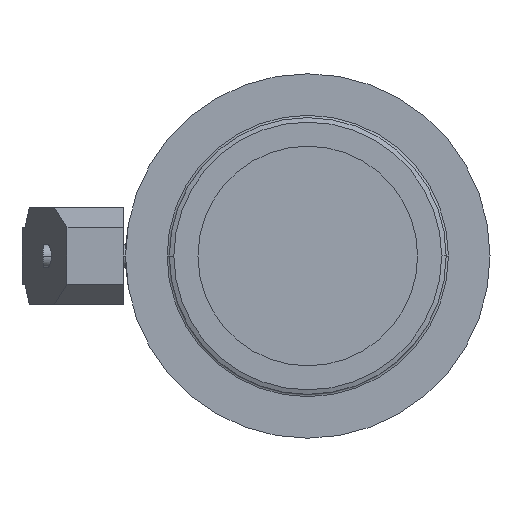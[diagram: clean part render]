
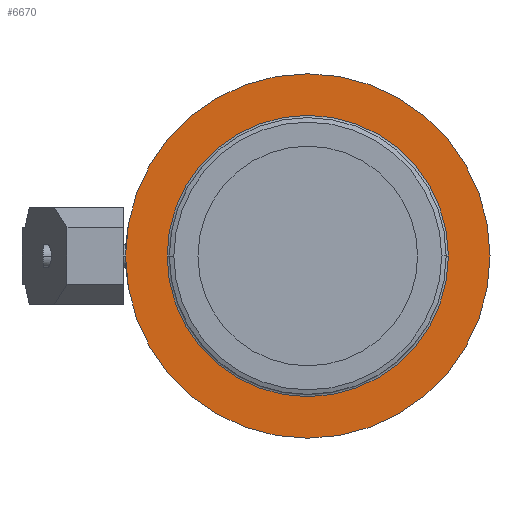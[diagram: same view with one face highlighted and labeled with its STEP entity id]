
A CAD part, left-side view. The second image highlights one B-rep face of the part: STEP entity #6670.
In plain terms, the highlighted planar face has unit normal (-1, 0, 0).
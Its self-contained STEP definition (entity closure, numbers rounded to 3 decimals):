
#4040=CARTESIAN_POINT('',(92.024,-120.808,
0.));
#4050=VERTEX_POINT('',#4040);
#6280=CARTESIAN_POINT('',(92.024,41.192,0.));
#6290=VERTEX_POINT('',#6280);
#6320=CARTESIAN_POINT('',(92.024,-39.808,0.));
#6330=DIRECTION('',(1.,0.,0.));
#6340=DIRECTION('',(0.,1.,0.));
#6350=AXIS2_PLACEMENT_3D('',#6320,#6330,#6340);
#6360=CIRCLE('',#6350,81.);
#6370=EDGE_CURVE('',#4050,#6290,#6360,.T.);
#6420=CARTESIAN_POINT('',(92.024,38.842,0.));
#6430=DIRECTION('',(1.,0.,0.));
#6440=DIRECTION('',(0.,1.,0.));
#6450=AXIS2_PLACEMENT_3D('',#6420,#6430,#6440);
#6460=PLANE('',#6450);
#6470=CARTESIAN_POINT('',(92.024,-39.808,0.));
#6480=DIRECTION('',(1.,0.,0.));
#6490=DIRECTION('',(0.,1.,0.));
#6500=AXIS2_PLACEMENT_3D('',#6470,#6480,#6490);
#6510=CIRCLE('',#6500,62.5);
#6520=CARTESIAN_POINT('',(92.024,22.692,0.));
#6530=VERTEX_POINT('',#6520);
#6540=CARTESIAN_POINT('',(92.024,-102.308,0.));
#6550=VERTEX_POINT('',#6540);
#6560=EDGE_CURVE('',#6530,#6550,#6510,.T.);
#6570=ORIENTED_EDGE('',*,*,#6560,.T.);
#6580=EDGE_CURVE('',#6550,#6530,#6510,.T.);
#6590=ORIENTED_EDGE('',*,*,#6580,.T.);
#6600=EDGE_LOOP('',(#6590,#6570));
#6610=FACE_BOUND('',#6600,.T.);
#6620=EDGE_CURVE('',#6290,#4050,#6360,.T.);
#6630=ORIENTED_EDGE('',*,*,#6620,.F.);
#6640=ORIENTED_EDGE('',*,*,#6370,.F.);
#6650=EDGE_LOOP('',(#6640,#6630));
#6660=FACE_OUTER_BOUND('',#6650,.T.);
#6670=ADVANCED_FACE('',(#6610,#6660),#6460,.F.);
